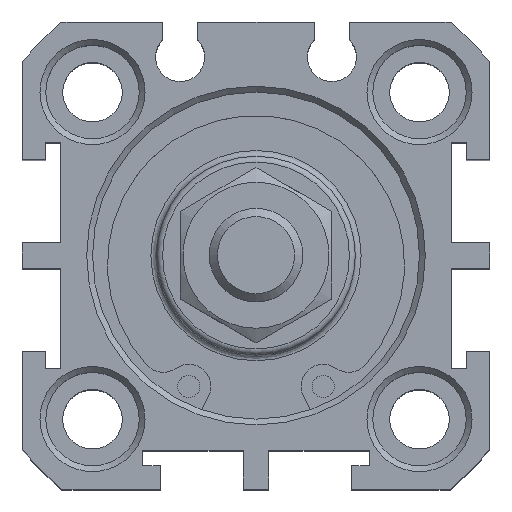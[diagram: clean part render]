
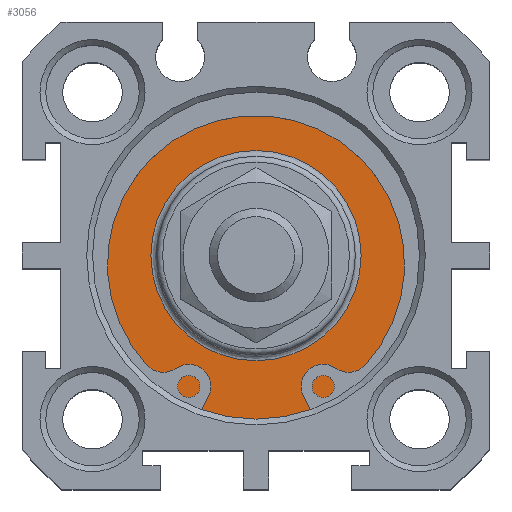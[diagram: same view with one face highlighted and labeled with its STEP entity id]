
A CAD part, top view. The second image highlights one B-rep face of the part: STEP entity #3056.
In plain terms, the highlighted planar face has unit normal (0, 0, 1).
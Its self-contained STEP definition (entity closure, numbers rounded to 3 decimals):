
#3005=CARTESIAN_POINT('',(0.12,10.914,38.3));
#3006=VERTEX_POINT('',#3005);
#3007=CARTESIAN_POINT('',(0.12,1.914,38.3));
#3008=DIRECTION('',(0.0,0.0,1.0));
#3009=DIRECTION('',(0.0,-1.0,0.0));
#3010=AXIS2_PLACEMENT_3D('',#3007,#3008,#3009);
#3011=CIRCLE('',#3010,9.);
#3012=EDGE_CURVE('',#3006,#3006,#3011,.T.);
#3037=CARTESIAN_POINT('',(0.12,13.164,38.3));
#3038=DIRECTION('',(0.0,0.0,1.0));
#3039=DIRECTION('',(1.0,0.0,0.0));
#3040=AXIS2_PLACEMENT_3D('',#3037,#3038,#3039);
#3041=PLANE('',#3040);
#3042=CARTESIAN_POINT('',(0.12,15.914,38.3));
#3043=VERTEX_POINT('',#3042);
#3044=CARTESIAN_POINT('',(0.12,1.914,38.3));
#3045=DIRECTION('',(0.0,0.0,-1.0));
#3046=DIRECTION('',(0.0,1.0,0.0));
#3047=AXIS2_PLACEMENT_3D('',#3044,#3045,#3046);
#3048=CIRCLE('',#3047,14.0);
#3049=EDGE_CURVE('',#3043,#3043,#3048,.T.);
#3050=ORIENTED_EDGE('',*,*,#3049,.F.);
#3051=EDGE_LOOP('',(#3050));
#3052=FACE_OUTER_BOUND('',#3051,.T.);
#3053=ORIENTED_EDGE('',*,*,#3012,.F.);
#3054=EDGE_LOOP('',(#3053));
#3055=FACE_BOUND('',#3054,.T.);
#3056=ADVANCED_FACE('',(#3052,#3055),#3041,.T.);
